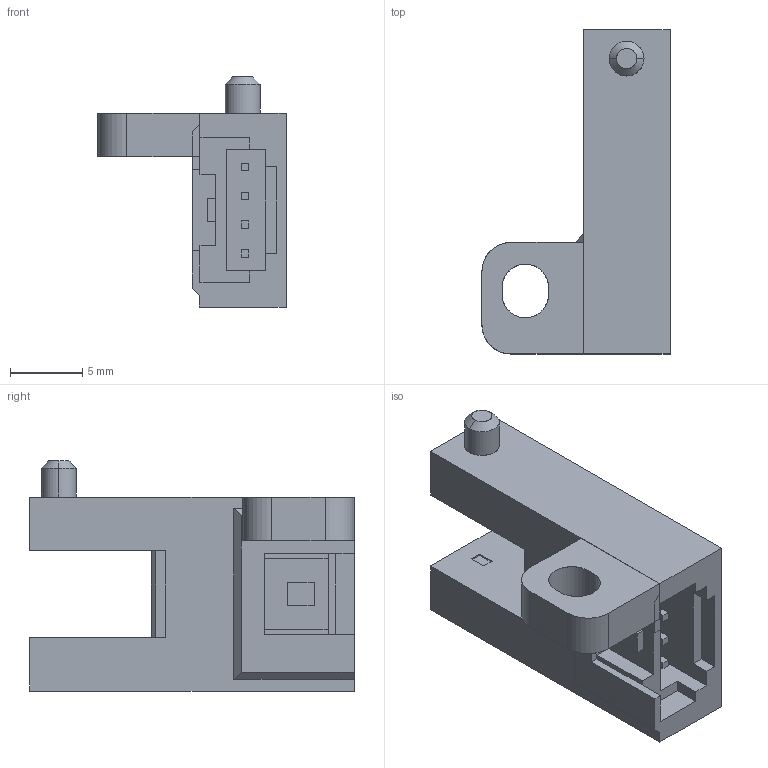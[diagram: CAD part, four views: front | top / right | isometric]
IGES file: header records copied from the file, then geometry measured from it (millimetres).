
Start section: SolidWorks IGES file using analytic representation for surfaces
Global section: file name: C:\catalog\pm-r65.IGS; native system: SolidWorks 2010; preprocessor: SolidWorks 2010; author: C0278; date: 150807.171210; units: millimetre
Bounding box: 13 x 22.4 x 15.9 mm (x, y, z)
Surface area: 1429.3 mm2 (no closed solid volume)
Topology: 0 solids, 0 shells, 112 faces, 712 edges, 712 vertices
Faces by surface type: bspline 104, revolution 8
